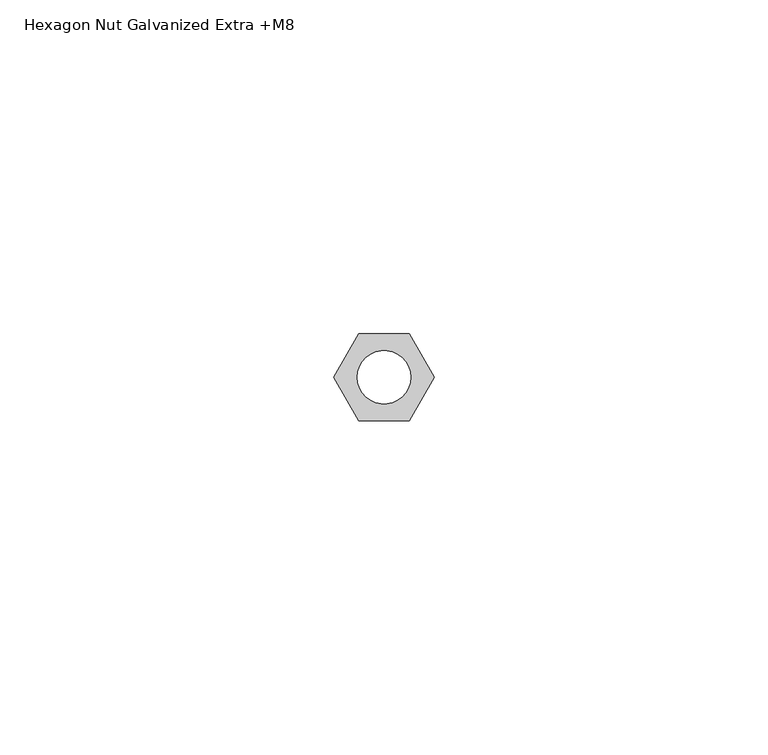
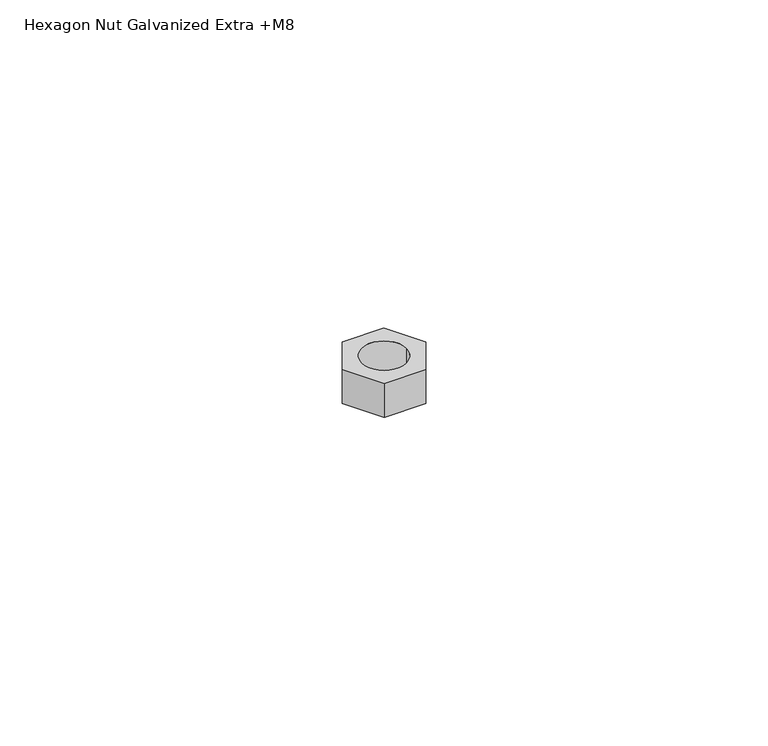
"""IFC4 building model written with IfcOpenShell, lengths in millimetres: valve geometry, Superfix Hexagon Nut Galvanized : Hexagon Nut Galvanized Extra +M8."""

from ifc_helpers import new_model, si_unit, point, origin, origin_with_axes, origin_2d, place, context, project, spatial, polyline, circle_curve, trimmed, segment, composite_curve, outline, extrude, source, transform, mapped, element, save


def hexagon_nut_galvanized_extra_m8_53389388(model_context):
    return source(origin(), model_context, "Body", "SweptSolid", [
        extrude(outline(polyline([(-7.5055535, 0.0), (-3.7527767, 6.5), (3.7527767, 6.5), (7.5055535, 0.0), (3.7527767, -6.5), (-3.7527767, -6.5), (-7.5055535, 0.0)]), holes=[composite_curve([segment(trimmed(circle_curve(origin_2d(), 4.0), [point((-4.0, 0.0))], [point((4.0, 0.0))], True, "CARTESIAN"), True, "CONTINUOUS"), segment(trimmed(circle_curve(origin_2d(), 4.0), [point((4.0, 0.0))], [point((-4.0, 0.0))], True, "CARTESIAN"), True, "CONTINUOUS")], self_intersect=False)]), origin_with_axes(), (0.0, 0.0, 1.0), 6.5),
    ])


if __name__ == "__main__":
    model = new_model("IFC4")
    model_context = context("Model", 3, world=origin())
    ifc_project = project(units=[si_unit("LENGTHUNIT", "METRE", prefix="MILLI")], contexts=[model_context])
    site = spatial("IfcSite", under=ifc_project)
    building = spatial("IfcBuilding", under=site)
    placement = place(None, origin())
    hexagon_nut_galvanized_extra_m8_shape = hexagon_nut_galvanized_extra_m8_53389388(model_context)
    element("IfcValve", 1, ObjectType="Superfix Hexagon Nut Galvanized : Hexagon Nut Galvanized Extra +M8", at=placement, inside=building, context=model_context, shape_type="MappedRepresentation", body=[
        mapped(hexagon_nut_galvanized_extra_m8_shape, transform((0.0, 0.0, 0.0), x_axis=(1.0, 0.0, 0.0), y_axis=(0.0, 1.0, 0.0), z_axis=(0.0, 0.0, 1.0))),
    ])
    save(model, "model.ifc")
